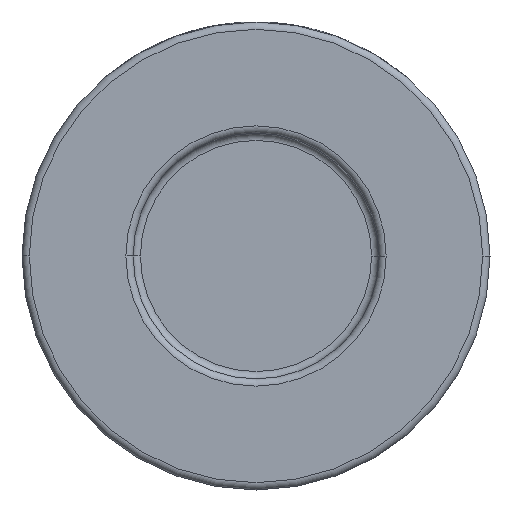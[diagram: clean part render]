
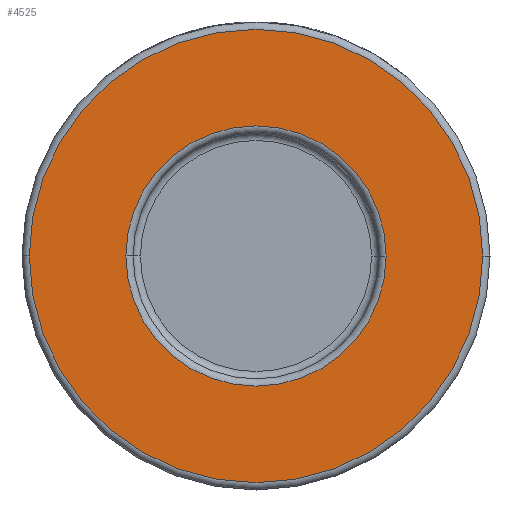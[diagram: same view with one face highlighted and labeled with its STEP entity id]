
A CAD part, front view. The second image highlights one B-rep face of the part: STEP entity #4525.
In plain terms, the highlighted planar face has unit normal (0, -1, 0).
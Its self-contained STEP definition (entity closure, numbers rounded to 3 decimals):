
#21 = VERTEX_POINT ( 'NONE', #1027 ) ;
#45 = AXIS2_PLACEMENT_3D ( 'NONE', #895, #4362, #4016 ) ;
#155 = CIRCLE ( 'NONE', #1844, 17.8 ) ;
#453 = ORIENTED_EDGE ( 'NONE', *, *, #976, .T. ) ;
#548 = CARTESIAN_POINT ( 'NONE',  ( 31., -22., 0. ) ) ;
#895 = CARTESIAN_POINT ( 'NONE',  ( 0., -22., 0. ) ) ;
#968 = DIRECTION ( 'NONE',  ( 0., -1., 0. ) ) ;
#976 = EDGE_CURVE ( 'NONE', #979, #2070, #4013, .T. ) ;
#979 = VERTEX_POINT ( 'NONE', #548 ) ;
#1027 = CARTESIAN_POINT ( 'NONE',  ( 17.8, -22., 0. ) ) ;
#1077 = FACE_OUTER_BOUND ( 'NONE', #2263, .T. ) ;
#1106 = AXIS2_PLACEMENT_3D ( 'NONE', #3277, #3994, #2156 ) ;
#1249 = CIRCLE ( 'NONE', #1106, 17.8 ) ;
#1339 = CARTESIAN_POINT ( 'NONE',  ( -17.8, -22., 0. ) ) ;
#1602 = ORIENTED_EDGE ( 'NONE', *, *, #4285, .T. ) ;
#1844 = AXIS2_PLACEMENT_3D ( 'NONE', #4410, #4066, #3300 ) ;
#1997 = DIRECTION ( 'NONE',  ( 1., 0., 0. ) ) ;
#2070 = VERTEX_POINT ( 'NONE', #3714 ) ;
#2156 = DIRECTION ( 'NONE',  ( 1., 0., 0. ) ) ;
#2263 = EDGE_LOOP ( 'NONE', ( #453, #3198 ) ) ;
#2500 = ORIENTED_EDGE ( 'NONE', *, *, #3205, .T. ) ;
#2735 = VERTEX_POINT ( 'NONE', #1339 ) ;
#2804 = EDGE_LOOP ( 'NONE', ( #2500, #1602 ) ) ;
#2817 = PLANE ( 'NONE',  #3017 ) ;
#2859 = DIRECTION ( 'NONE',  ( 1., 0., 0. ) ) ;
#3017 = AXIS2_PLACEMENT_3D ( 'NONE', #3594, #3249, #2859 ) ;
#3028 = CARTESIAN_POINT ( 'NONE',  ( 0., -22., 0. ) ) ;
#3198 = ORIENTED_EDGE ( 'NONE', *, *, #3343, .T. ) ;
#3205 = EDGE_CURVE ( 'NONE', #21, #2735, #1249, .T. ) ;
#3249 = DIRECTION ( 'NONE',  ( 0., -1., 0. ) ) ;
#3277 = CARTESIAN_POINT ( 'NONE',  ( 0., -22., 0. ) ) ;
#3300 = DIRECTION ( 'NONE',  ( 1., 0., 0. ) ) ;
#3343 = EDGE_CURVE ( 'NONE', #2070, #979, #4414, .T. ) ;
#3594 = CARTESIAN_POINT ( 'NONE',  ( 32., -22., 0. ) ) ;
#3714 = CARTESIAN_POINT ( 'NONE',  ( -31., -22., 0. ) ) ;
#3873 = FACE_BOUND ( 'NONE', #2804, .T. ) ;
#3994 = DIRECTION ( 'NONE',  ( 0., 1., 0. ) ) ;
#4013 = CIRCLE ( 'NONE', #45, 31. ) ;
#4016 = DIRECTION ( 'NONE',  ( 1., 0., 0. ) ) ;
#4066 = DIRECTION ( 'NONE',  ( 0., 1., 0. ) ) ;
#4117 = AXIS2_PLACEMENT_3D ( 'NONE', #3028, #968, #1997 ) ;
#4285 = EDGE_CURVE ( 'NONE', #2735, #21, #155, .T. ) ;
#4362 = DIRECTION ( 'NONE',  ( 0., -1., 0. ) ) ;
#4410 = CARTESIAN_POINT ( 'NONE',  ( 0., -22., 0. ) ) ;
#4414 = CIRCLE ( 'NONE', #4117, 31. ) ;
#4525 = ADVANCED_FACE ( 'NONE', ( #3873, #1077 ), #2817, .T. ) ;
